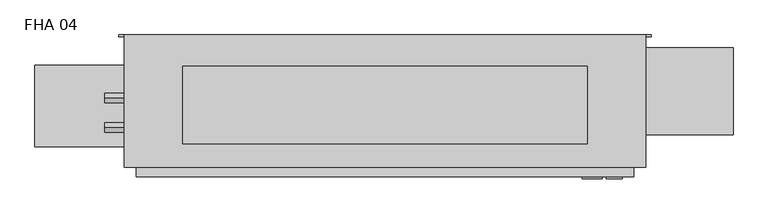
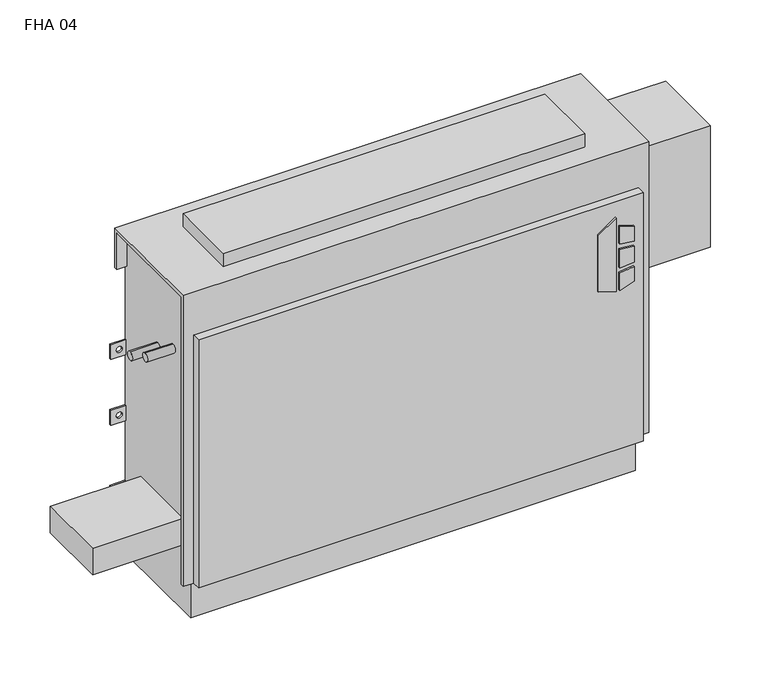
"""IFC4 building model written with IfcOpenShell, lengths in millimetres: proxy geometry, Vertical_Fan_Coil_Unit_-_FHA_-_IEC_-_2-Pipe_TS-FR_LH_2022 : FHA 04."""

from ifc_helpers import new_model, si_unit, point, frame, frame_2d, origin, place, context, project, spatial, polyline, circle_curve, trimmed, segment, composite_curve, outline, extrude, source, transform, mapped, element, save
from ifc_brep_helpers import plane_surface, revolved_surface, advanced_brep


def fha_04_b99a19b0(model_context):
    return source(origin(), model_context, "Body", "SolidModel", [
        extrude(outline(polyline([(391.6086829, 474.7368862), (381.6606126, 506.9102728), (523.831537, 506.9102728), (500.8095309, 474.7368862), (391.6086829, 474.7368862)])), frame((0.0, 9.525, 0.0), z_axis=(0.0, 1.0, 0.0), x_axis=(0.0, 0.0, 1.0)), (0.0, 0.0, 1.0), 3.175),
        extrude(outline(polyline([(470.6079683, 513.6686058), (467.4055757, 539.75), (496.6344168, 539.75), (504.6988318, 513.6686058), (470.6079683, 513.6686058)])), frame((0.0, 9.525, 0.0), z_axis=(0.0, 1.0, 0.0), x_axis=(0.0, 0.0, 1.0)), (0.0, 0.0, 1.0), 3.175),
        extrude(outline(polyline([(418.7444414, 539.75), (415.0789404, 513.6686058), (381.6606126, 513.6686058), (390.2948498, 539.75), (418.7444414, 539.75)])), frame((0.0, 9.525, 0.0), z_axis=(0.0, 1.0, 0.0), x_axis=(0.0, 0.0, 1.0)), (0.0, 0.0, 1.0), 3.175),
        extrude(outline(polyline([(458.0596028, 539.75), (460.3414292, 513.6686058), (424.4038806, 513.6686058), (427.1451456, 539.75), (458.0596028, 539.75)])), frame((0.0, 9.525, 0.0), z_axis=(0.0, 1.0, 0.0), x_axis=(0.0, 0.0, 1.0)), (0.0, 0.0, 1.0), 3.175),
        extrude(outline(composite_curve([segment(trimmed(circle_curve(frame_2d((-317.5, 128.5875)), 9.525), [point((-327.025, 128.5875))], [point((-307.975, 128.5875))], False, "CARTESIAN"), True, "CONTINUOUS"), segment(trimmed(circle_curve(frame_2d((-317.5, 128.5875)), 9.525), [point((-307.975, 128.5875))], [point((-327.025, 128.5875))], False, "CARTESIAN"), True, "CONTINUOUS")], self_intersect=False)), frame((0.0, 0.0, 101.6), z_axis=(0.0, 0.0, 1.0), x_axis=(1.0, 0.0, 0.0)), (0.0, 0.0, 1.0), 25.4),
        extrude(outline(polyline([(-419.1, 61.9125), (-419.1, 195.2625), (-254.0, 195.2625), (-254.0, 61.9125), (-419.1, 61.9125)])), frame((0.0, 0.0, 127.0), z_axis=(0.0, 0.0, 1.0), x_axis=(1.0, 0.0, 0.0)), (0.0, 0.0, 1.0), 50.8),
        extrude(outline(polyline([(482.6, 193.675), (482.6, 66.675), (-177.8, 66.675), (-177.8, 193.675), (482.6, 193.675)])), frame((0.0, 0.0, 635.0), z_axis=(0.0, 0.0, 1.0), x_axis=(1.0, 0.0, 0.0)), (0.0, 0.0, 1.0), 25.4),
        extrude(outline(composite_curve([segment(trimmed(circle_curve(frame_2d((93.1926, 488.0102)), 7.9375), [point((93.1926, 495.9477))], [point((93.1926, 480.0727))], False, "CARTESIAN"), True, "CONTINUOUS"), segment(trimmed(circle_curve(frame_2d((93.1926, 488.0102)), 7.9375), [point((93.1926, 480.0727))], [point((93.1926, 495.9477))], False, "CARTESIAN"), True, "CONTINUOUS")], self_intersect=False)), frame((-304.8, 0.0, 0.0), z_axis=(1.0, 0.0, 0.0), x_axis=(0.0, 1.0, 0.0)), (0.0, 0.0, 1.0), 50.8),
        extrude(outline(composite_curve([segment(trimmed(circle_curve(frame_2d((141.3002, 461.3402)), 7.9375), [point((141.3002, 469.2777))], [point((141.3002, 453.4027))], False, "CARTESIAN"), True, "CONTINUOUS"), segment(trimmed(circle_curve(frame_2d((141.3002, 461.3402)), 7.9375), [point((141.3002, 453.4027))], [point((141.3002, 469.2777))], False, "CARTESIAN"), True, "CONTINUOUS")], self_intersect=False)), frame((-304.8, 0.0, 0.0), z_axis=(1.0, 0.0, 0.0), x_axis=(0.0, 1.0, 0.0)), (0.0, 0.0, 1.0), 50.8),
        extrude(outline(polyline([(720.725, 223.266), (720.725, 81.534), (558.8, 81.534), (558.8, 223.266), (720.725, 223.266)])), frame((0.0, 0.0, 349.25), z_axis=(0.0, 0.0, 1.0), x_axis=(1.0, 0.0, 0.0)), (0.0, 0.0, 1.0), 234.95),
        advanced_brep(
        [(577.85, 244.475, 635.0), (-273.05, 244.475, 635.0), (-273.05, 28.575, 635.0), (577.85, 28.575, 635.0), (-254.0, 244.475, 0.0), (558.8, 244.475, 0.0), (558.8, 38.1, 0.0), (-254.0, 38.1, 0.0), (577.85, 244.475, 558.8), (558.8, 244.475, 558.8), (558.8, 244.475, 414.3375), (587.375, 244.475, 414.3375), (587.375, 244.475, 385.7625), (558.8, 244.475, 385.7625), (558.8, 244.475, 287.3375), (587.375, 244.475, 287.3375), (587.375, 244.475, 258.7625), (558.8, 244.475, 258.7625), (558.8, 244.475, 141.2875), (587.375, 244.475, 141.2875), (587.375, 244.475, 112.7125), (558.8, 244.475, 112.7125), (-254.0, 244.475, 112.7125), (-282.575, 244.475, 112.7125), (-282.575, 244.475, 141.2875), (-254.0, 244.475, 141.2875), (-254.0, 244.475, 258.7625), (-282.575, 244.475, 258.7625), (-282.575, 244.475, 287.3375), (-254.0, 244.475, 287.3375), (-254.0, 244.475, 385.7625), (-282.575, 244.475, 385.7625), (-282.575, 244.475, 414.3375), (-254.0, 244.475, 414.3375), (-254.0, 244.475, 558.8), (-273.05, 244.475, 558.8), (577.0626, 244.475, 127.0), (565.9374, 244.475, 127.0), (-261.1374, 244.475, 127.0), (-272.2626, 244.475, 127.0), (577.0626, 244.475, 273.05), (565.9374, 244.475, 273.05), (-261.1374, 244.475, 273.05), (-272.2626, 244.475, 273.05), (577.0626, 244.475, 400.05), (565.9374, 244.475, 400.05), (-261.1374, 244.475, 400.05), (-272.2626, 244.475, 400.05), (-273.05, 238.125, 558.8), (-273.05, 238.125, 628.65), (-273.05, 34.925, 628.65), (-273.05, 34.925, 73.025), (-273.05, 28.575, 73.025), (558.8, 12.7, 552.45), (-254.0, 12.7, 552.45), (-254.0, 12.7, 73.025), (558.8, 12.7, 73.025), (577.85, 28.575, 73.025), (577.85, 34.925, 73.025), (577.85, 34.925, 628.65), (577.85, 238.125, 628.65), (577.85, 238.125, 558.8), (-254.0, 28.575, 73.025), (-254.0, 28.575, 552.45), (558.8, 28.575, 552.45), (558.8, 28.575, 73.025), (-254.0, 34.925, 73.025), (-254.0, 38.1, 73.025), (558.8, 38.1, 73.025), (558.8, 34.925, 73.025), (558.8, 241.3, 112.7125), (558.8, 241.3, 141.2875), (558.8, 241.3, 258.7625), (558.8, 241.3, 287.3375), (558.8, 241.3, 385.7625), (558.8, 241.3, 414.3375), (558.8, 238.125, 558.8), (558.8, 238.125, 628.65), (558.8, 34.925, 628.65), (-254.0, 34.925, 628.65), (-254.0, 238.125, 628.65), (-254.0, 238.125, 558.8), (-254.0, 241.3, 414.3375), (-254.0, 241.3, 385.7625), (-254.0, 241.3, 287.3375), (-254.0, 241.3, 258.7625), (-254.0, 241.3, 141.2875), (-254.0, 241.3, 112.7125), (587.375, 241.3, 112.7125), (587.375, 241.3, 141.2875), (565.9374, 241.3, 127.0), (577.0626, 241.3, 127.0), (587.375, 241.3, 258.7625), (587.375, 241.3, 287.3375), (565.9374, 241.3, 273.05), (577.0626, 241.3, 273.05), (587.375, 241.3, 385.7625), (587.375, 241.3, 414.3375), (565.9374, 241.3, 400.05), (577.0626, 241.3, 400.05), (-282.575, 241.3, 141.2875), (-282.575, 241.3, 112.7125), (-272.2626, 241.3, 127.0), (-261.1374, 241.3, 127.0), (-282.575, 241.3, 287.3375), (-282.575, 241.3, 258.7625), (-272.2626, 241.3, 273.05), (-261.1374, 241.3, 273.05), (-282.575, 241.3, 414.3375), (-282.575, 241.3, 385.7625), (-272.2626, 241.3, 400.05), (-261.1374, 241.3, 400.05)],
        [
            (0, 1),
            (1, 2),
            (2, 3),
            (3, 0),
            (4, 5),
            (5, 6),
            (6, 7),
            (7, 4),
            (0, 8),
            (8, 9),
            (9, 10),
            (10, 11),
            (11, 12),
            (12, 13),
            (13, 14),
            (14, 15),
            (15, 16),
            (16, 17),
            (17, 18),
            (18, 19),
            (19, 20),
            (20, 21),
            (21, 5),
            (4, 22),
            (22, 23),
            (23, 24),
            (24, 25),
            (25, 26),
            (26, 27),
            (27, 28),
            (28, 29),
            (29, 30),
            (30, 31),
            (31, 32),
            (32, 33),
            (33, 34),
            (34, 35),
            (35, 1),
            (36, 37, circle_curve(frame((571.5, 244.475, 127.0), z_axis=(0.0, -1.0, 0.0), x_axis=(-1.0, 0.0, 0.0)), 5.5626)),
            (37, 36, circle_curve(frame((571.5, 244.475, 127.0), z_axis=(0.0, -1.0, 0.0), x_axis=(-1.0, 0.0, 0.0)), 5.5626)),
            (38, 39, circle_curve(frame((-266.7, 244.475, 127.0), z_axis=(0.0, -1.0, 0.0), x_axis=(-1.0, 0.0, 0.0)), 5.5626)),
            (39, 38, circle_curve(frame((-266.7, 244.475, 127.0), z_axis=(0.0, -1.0, 0.0), x_axis=(-1.0, 0.0, 0.0)), 5.5626)),
            (40, 41, circle_curve(frame((571.5, 244.475, 273.05), z_axis=(0.0, -1.0, 0.0), x_axis=(-1.0, 0.0, 0.0)), 5.5626)),
            (41, 40, circle_curve(frame((571.5, 244.475, 273.05), z_axis=(0.0, -1.0, 0.0), x_axis=(-1.0, 0.0, 0.0)), 5.5626)),
            (42, 43, circle_curve(frame((-266.7, 244.475, 273.05), z_axis=(0.0, -1.0, 0.0), x_axis=(-1.0, 0.0, 0.0)), 5.5626)),
            (43, 42, circle_curve(frame((-266.7, 244.475, 273.05), z_axis=(0.0, -1.0, 0.0), x_axis=(-1.0, 0.0, 0.0)), 5.5626)),
            (44, 45, circle_curve(frame((571.5, 244.475, 400.05), z_axis=(0.0, -1.0, 0.0), x_axis=(-1.0, 0.0, 0.0)), 5.5626)),
            (45, 44, circle_curve(frame((571.5, 244.475, 400.05), z_axis=(0.0, -1.0, 0.0), x_axis=(-1.0, 0.0, 0.0)), 5.5626)),
            (46, 47, circle_curve(frame((-266.7, 244.475, 400.05), z_axis=(0.0, -1.0, 0.0), x_axis=(-1.0, 0.0, 0.0)), 5.5626)),
            (47, 46, circle_curve(frame((-266.7, 244.475, 400.05), z_axis=(0.0, -1.0, 0.0), x_axis=(-1.0, 0.0, 0.0)), 5.5626)),
            (35, 48),
            (48, 49),
            (49, 50),
            (50, 51),
            (51, 52),
            (52, 2),
            (53, 54),
            (54, 55),
            (55, 56),
            (56, 53),
            (3, 57),
            (57, 58),
            (58, 59),
            (59, 60),
            (60, 61),
            (61, 8),
            (52, 62),
            (62, 63),
            (63, 64),
            (64, 65),
            (65, 57),
            (53, 64),
            (63, 54),
            (55, 62),
            (51, 66),
            (66, 67),
            (67, 68),
            (68, 69),
            (69, 58),
            (65, 56),
            (6, 68),
            (67, 7),
            (21, 70),
            (70, 71),
            (71, 18),
            (17, 72),
            (72, 73),
            (73, 14),
            (13, 74),
            (74, 75),
            (75, 10),
            (9, 76),
            (76, 77),
            (77, 78),
            (78, 69),
            (66, 79),
            (79, 80),
            (80, 81),
            (81, 34),
            (33, 82),
            (82, 83),
            (83, 30),
            (29, 84),
            (84, 85),
            (85, 26),
            (25, 86),
            (86, 87),
            (87, 22),
            (76, 61),
            (60, 77),
            (78, 59),
            (50, 79),
            (81, 48),
            (80, 49),
            (70, 88),
            (88, 89),
            (89, 71),
            (90, 91, circle_curve(frame((571.5, 241.3, 127.0), z_axis=(0.0, 1.0, 0.0), x_axis=(-1.0, 0.0, 0.0)), 5.5626)),
            (91, 90, circle_curve(frame((571.5, 241.3, 127.0), z_axis=(0.0, 1.0, 0.0), x_axis=(-1.0, 0.0, 0.0)), 5.5626)),
            (92, 93),
            (93, 73),
            (72, 92),
            (94, 95, circle_curve(frame((571.5, 241.3, 273.05), z_axis=(0.0, 1.0, 0.0), x_axis=(-1.0, 0.0, 0.0)), 5.5626)),
            (95, 94, circle_curve(frame((571.5, 241.3, 273.05), z_axis=(0.0, 1.0, 0.0), x_axis=(-1.0, 0.0, 0.0)), 5.5626)),
            (96, 97),
            (97, 75),
            (74, 96),
            (98, 99, circle_curve(frame((571.5, 241.3, 400.05), z_axis=(0.0, 1.0, 0.0), x_axis=(-1.0, 0.0, 0.0)), 5.5626)),
            (99, 98, circle_curve(frame((571.5, 241.3, 400.05), z_axis=(0.0, 1.0, 0.0), x_axis=(-1.0, 0.0, 0.0)), 5.5626)),
            (100, 101),
            (101, 87),
            (86, 100),
            (102, 103, circle_curve(frame((-266.7, 241.3, 127.0), z_axis=(0.0, 1.0, 0.0), x_axis=(-1.0, 0.0, 0.0)), 5.5626)),
            (103, 102, circle_curve(frame((-266.7, 241.3, 127.0), z_axis=(0.0, 1.0, 0.0), x_axis=(-1.0, 0.0, 0.0)), 5.5626)),
            (84, 104),
            (104, 105),
            (105, 85),
            (106, 107, circle_curve(frame((-266.7, 241.3, 273.05), z_axis=(0.0, 1.0, 0.0), x_axis=(-1.0, 0.0, 0.0)), 5.5626)),
            (107, 106, circle_curve(frame((-266.7, 241.3, 273.05), z_axis=(0.0, 1.0, 0.0), x_axis=(-1.0, 0.0, 0.0)), 5.5626)),
            (108, 109),
            (109, 83),
            (82, 108),
            (110, 111, circle_curve(frame((-266.7, 241.3, 400.05), z_axis=(0.0, 1.0, 0.0), x_axis=(-1.0, 0.0, 0.0)), 5.5626)),
            (111, 110, circle_curve(frame((-266.7, 241.3, 400.05), z_axis=(0.0, 1.0, 0.0), x_axis=(-1.0, 0.0, 0.0)), 5.5626)),
            (89, 19),
            (88, 20),
            (16, 92),
            (93, 15),
            (12, 96),
            (97, 11),
            (24, 100),
            (101, 23),
            (105, 27),
            (104, 28),
            (32, 108),
            (109, 31),
            (90, 37),
            (36, 91),
            (102, 39),
            (38, 103),
            (94, 41),
            (40, 95),
            (106, 43),
            (42, 107),
            (98, 45),
            (44, 99),
            (110, 47),
            (46, 111),
        ],
        [
            plane_surface(frame((-273.05, 244.475, 635.0), z_axis=(0.0, 0.0, 1.0), x_axis=(-1.0, 0.0, 0.0))),
            plane_surface(frame((-273.05, 244.475, 0.0), z_axis=(0.0, 0.0, -1.0), x_axis=(1.0, 0.0, 0.0))),
            plane_surface(frame((577.85, 244.475, 635.0), z_axis=(0.0, 1.0, 0.0), x_axis=(0.0, 0.0, -1.0))),
            plane_surface(frame((-273.05, 244.475, 635.0), z_axis=(-1.0, 0.0, 0.0), x_axis=(0.0, 0.0, -1.0))),
            plane_surface(frame((-273.05, 12.7, 635.0), z_axis=(0.0, -1.0, 0.0), x_axis=(0.0, 0.0, -1.0))),
            plane_surface(frame((577.85, 12.7, 635.0), z_axis=(1.0, 0.0, 0.0), x_axis=(0.0, 0.0, -1.0))),
            plane_surface(frame((-400.05, 28.575, 635.0), z_axis=(0.0, -1.0, 0.0), x_axis=(1.0, 0.0, 0.0))),
            plane_surface(frame((-400.05, 28.575, 552.45), z_axis=(0.0, 0.0, 1.0), x_axis=(1.0, 0.0, 0.0))),
            plane_surface(frame((-273.05, 12.7, 73.025), z_axis=(0.0, 0.0, -1.0), x_axis=(1.0, 0.0, 0.0))),
            plane_surface(frame((-273.05, 38.1, 73.025), z_axis=(0.0, -1.0, 0.0), x_axis=(1.0, 0.0, 0.0))),
            plane_surface(frame((558.8, 28.575, 73.025), z_axis=(1.0, 0.0, 0.0), x_axis=(0.0, -1.0, 0.0))),
            plane_surface(frame((-254.0, 28.575, 552.45), z_axis=(-1.0, 0.0, 0.0), x_axis=(0.0, -1.0, 0.0))),
            plane_surface(frame((558.8, 244.475, 0.0), z_axis=(1.0, 0.0, 0.0), x_axis=(0.0, -1.0, 0.0))),
            plane_surface(frame((-254.0, 244.475, 73.025), z_axis=(-1.0, 0.0, 0.0), x_axis=(0.0, -1.0, 0.0))),
            plane_surface(frame((558.8, 238.125, 628.65), z_axis=(0.0, -1.0, 0.0), x_axis=(1.0, 0.0, 0.0))),
            plane_surface(frame((558.8, 238.125, 558.8), z_axis=(0.0, 0.0, -1.0), x_axis=(1.0, 0.0, 0.0))),
            plane_surface(frame((558.8, 34.925, 73.025), z_axis=(0.0, 1.0, 0.0), x_axis=(1.0, 0.0, 0.0))),
            plane_surface(frame((558.8, 34.925, 628.65), z_axis=(0.0, 0.0, -1.0), x_axis=(1.0, 0.0, 0.0))),
            plane_surface(frame((-254.0, 34.925, 628.65), z_axis=(0.0, 1.0, 0.0), x_axis=(-1.0, 0.0, 0.0))),
            plane_surface(frame((-254.0, 244.475, 558.8), z_axis=(0.0, 0.0, -1.0), x_axis=(-1.0, 0.0, 0.0))),
            plane_surface(frame((-254.0, 238.125, 558.8), z_axis=(0.0, -1.0, 0.0), x_axis=(-1.0, 0.0, 0.0))),
            plane_surface(frame((-254.0, 238.125, 628.65), z_axis=(0.0, 0.0, -1.0), x_axis=(-1.0, 0.0, 0.0))),
            plane_surface(frame((587.375, 241.3, 141.2875), z_axis=(0.0, -1.0, 0.0), x_axis=(-1.0, 0.0, 0.0))),
            plane_surface(frame((558.8, 244.475, 141.2875), z_axis=(0.0, 0.0, 1.0), x_axis=(0.0, -1.0, 0.0))),
            plane_surface(frame((587.375, 244.475, 141.2875), z_axis=(1.0, 0.0, 0.0), x_axis=(0.0, -1.0, 0.0))),
            plane_surface(frame((587.375, 244.475, 112.7125), z_axis=(0.0, 0.0, -1.0), x_axis=(0.0, -1.0, 0.0))),
            plane_surface(frame((587.375, 244.475, 258.7625), z_axis=(0.0, 0.0, -1.0), x_axis=(0.0, -1.0, 0.0))),
            plane_surface(frame((558.8, 244.475, 287.3375), z_axis=(0.0, 0.0, 1.0), x_axis=(0.0, -1.0, 0.0))),
            plane_surface(frame((587.375, 244.475, 287.3375), z_axis=(1.0, 0.0, 0.0), x_axis=(0.0, -1.0, 0.0))),
            plane_surface(frame((587.375, 244.475, 385.7625), z_axis=(0.0, 0.0, -1.0), x_axis=(0.0, -1.0, 0.0))),
            plane_surface(frame((558.8, 244.475, 414.3375), z_axis=(0.0, 0.0, 1.0), x_axis=(0.0, -1.0, 0.0))),
            plane_surface(frame((587.375, 244.475, 414.3375), z_axis=(1.0, 0.0, 0.0), x_axis=(0.0, -1.0, 0.0))),
            plane_surface(frame((-282.575, 244.475, 141.2875), z_axis=(0.0, 0.0, 1.0), x_axis=(0.0, -1.0, 0.0))),
            plane_surface(frame((-254.0, 244.475, 112.7125), z_axis=(0.0, 0.0, -1.0), x_axis=(0.0, -1.0, 0.0))),
            plane_surface(frame((-282.575, 244.475, 112.7125), z_axis=(-1.0, 0.0, 0.0), x_axis=(0.0, -1.0, 0.0))),
            plane_surface(frame((-254.0, 244.475, 258.7625), z_axis=(0.0, 0.0, -1.0), x_axis=(0.0, -1.0, 0.0))),
            plane_surface(frame((-282.575, 244.475, 258.7625), z_axis=(-1.0, 0.0, 0.0), x_axis=(0.0, -1.0, 0.0))),
            plane_surface(frame((-282.575, 244.475, 287.3375), z_axis=(0.0, 0.0, 1.0), x_axis=(0.0, -1.0, 0.0))),
            plane_surface(frame((-282.575, 244.475, 414.3375), z_axis=(0.0, 0.0, 1.0), x_axis=(0.0, -1.0, 0.0))),
            plane_surface(frame((-254.0, 244.475, 385.7625), z_axis=(0.0, 0.0, -1.0), x_axis=(0.0, -1.0, 0.0))),
            plane_surface(frame((-282.575, 244.475, 385.7625), z_axis=(-1.0, 0.0, 0.0), x_axis=(0.0, -1.0, 0.0))),
            revolved_surface(polyline([(565.9374, 241.3, 127.0), (565.9374, 244.475, 127.0)]), (571.5, 244.475, 127.0), (0.0, -1.0, 0.0)),
            revolved_surface(polyline([(-272.26259999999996, 241.3, 127.0), (-272.26259999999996, 244.475, 127.0)]), (-266.7, 244.475, 127.0), (0.0, -1.0, 0.0)),
            revolved_surface(polyline([(565.9374, 241.3, 273.05), (565.9374, 244.475, 273.05)]), (571.5, 244.475, 273.05), (0.0, -1.0, 0.0)),
            revolved_surface(polyline([(-272.26259999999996, 241.3, 273.05), (-272.26259999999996, 244.475, 273.05)]), (-266.7, 244.475, 273.05), (0.0, -1.0, 0.0)),
            revolved_surface(polyline([(565.9374, 241.3, 400.05), (565.9374, 244.475, 400.05)]), (571.5, 244.475, 400.05), (0.0, -1.0, 0.0)),
            revolved_surface(polyline([(-272.26259999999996, 241.3, 400.05), (-272.26259999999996, 244.475, 400.05)]), (-266.7, 244.475, 400.05), (0.0, -1.0, 0.0)),
        ],
        [
            (0, [[1, 2, 3, 4]]),
            (1, [[5, 6, 7, 8]]),
            (2, [[-1, 9, 10, 11, 12, 13, 14, 15, 16, 17, 18, 19, 20, 21, 22, 23, -5, 24, 25, 26, 27, 28, 29, 30, 31, 32, 33, 34, 35, 36, 37, 38], [39, 40], [41, 42], [43, 44], [45, 46], [47, 48], [49, 50]]),
            (3, [[-2, -38, 51, 52, 53, 54, 55, 56]]),
            (4, [[57, 58, 59, 60]]),
            (5, [[-4, 61, 62, 63, 64, 65, 66, -9]]),
            (6, [[-3, -56, 67, 68, 69, 70, 71, -61]]),
            (7, [[-57, 72, -69, 73]]),
            (8, [[-59, 74, -67, -55, 75, 76, 77, 78, 79, -62, -71, 80]]),
            (9, [[-7, 81, -77, 82]]),
            (10, [[-70, -72, -60, -80]]),
            (11, [[-68, -74, -58, -73]]),
            (12, [[-6, -23, 83, 84, 85, -19, 86, 87, 88, -15, 89, 90, 91, -11, 92, 93, 94, 95, -78, -81]]),
            (13, [[-8, -82, -76, 96, 97, 98, 99, -36, 100, 101, 102, -32, 103, 104, 105, -28, 106, 107, 108, -24]]),
            (14, [[-93, 109, -65, 110]]),
            (15, [[-92, -10, -66, -109]]),
            (16, [[-95, 111, -63, -79]]),
            (17, [[-94, -110, -64, -111]]),
            (18, [[-96, -75, -54, 112]]),
            (19, [[-99, 113, -51, -37]]),
            (20, [[-98, 114, -52, -113]]),
            (21, [[-97, -112, -53, -114]]),
            (22, [[115, 116, 117, -84], [118, 119]]),
            (22, [[120, 121, -87, 122], [123, 124]]),
            (22, [[125, 126, -90, 127], [128, 129]]),
            (22, [[130, 131, -107, 132], [133, 134]]),
            (22, [[135, 136, 137, -104], [138, 139]]),
            (22, [[140, 141, -101, 142], [143, 144]]),
            (23, [[-117, 145, -20, -85]]),
            (24, [[-116, 146, -21, -145]]),
            (25, [[-115, -83, -22, -146]]),
            (26, [[-122, -86, -18, 147]]),
            (27, [[-121, 148, -16, -88]]),
            (28, [[-120, -147, -17, -148]]),
            (29, [[-127, -89, -14, 149]]),
            (30, [[-126, 150, -12, -91]]),
            (31, [[-125, -149, -13, -150]]),
            (32, [[-132, -106, -27, 151]]),
            (33, [[-131, 152, -25, -108]]),
            (34, [[-130, -151, -26, -152]]),
            (35, [[-137, 153, -29, -105]]),
            (36, [[-136, 154, -30, -153]]),
            (37, [[-135, -103, -31, -154]]),
            (38, [[-142, -100, -35, 155]]),
            (39, [[-141, 156, -33, -102]]),
            (40, [[-140, -155, -34, -156]]),
            (41, [[157, -39, 158, -118]]),
            (41, [[-157, -119, -158, -40]]),
            (42, [[159, -41, 160, -133]]),
            (42, [[-159, -134, -160, -42]]),
            (43, [[161, -43, 162, -123]]),
            (43, [[-161, -124, -162, -44]]),
            (44, [[163, -45, 164, -138]]),
            (44, [[-163, -139, -164, -46]]),
            (45, [[165, -47, 166, -128]]),
            (45, [[-165, -129, -166, -48]]),
            (46, [[167, -49, 168, -143]]),
            (46, [[-167, -144, -168, -50]]),
        ],
    ),
    ])


if __name__ == "__main__":
    model = new_model("IFC4")
    model_context = context("Model", 3, world=origin())
    ifc_project = project(units=[si_unit("LENGTHUNIT", "METRE", prefix="MILLI")], contexts=[model_context])
    site = spatial("IfcSite", under=ifc_project)
    building = spatial("IfcBuilding", under=site)
    placement = place(None, origin())
    fha_04_shape = fha_04_b99a19b0(model_context)
    element("IfcBuildingElementProxy", 1, Name="Vertical_Fan_Coil_Unit_-_FHA_-_IEC_-_2-Pipe_TS-FR_LH_2022 : FHA 04", ObjectType="Vertical_Fan_Coil_Unit_-_FHA_-_IEC_-_2-Pipe_TS-FR_LH_2022 : FHA 04", at=placement, inside=building, context=model_context, shape_type="MappedRepresentation", body=[
        mapped(fha_04_shape, transform((0.0, 0.0, 0.0), x_axis=(1.0, 0.0, 0.0), y_axis=(0.0, 1.0, 0.0), z_axis=(0.0, 0.0, 1.0))),
    ])
    save(model, "model.ifc")
